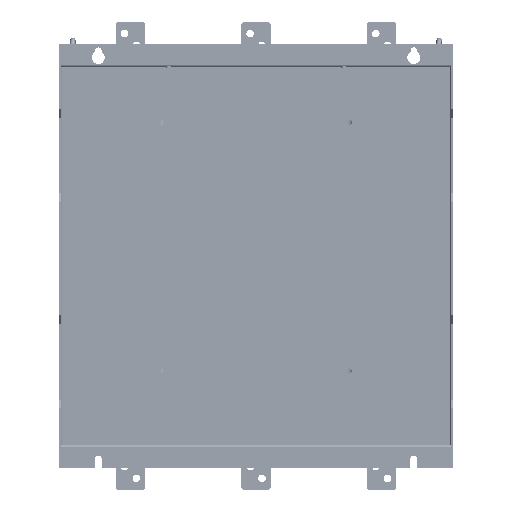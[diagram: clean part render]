
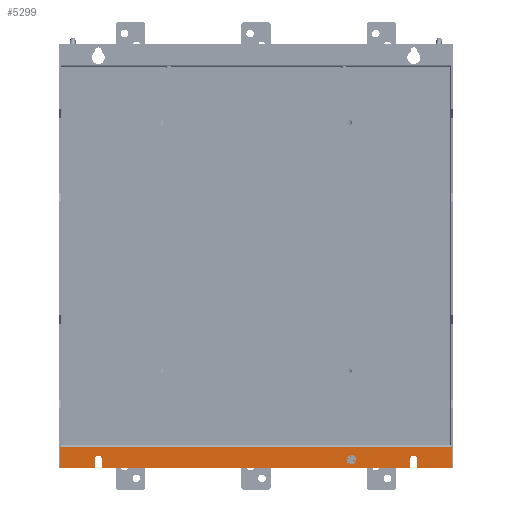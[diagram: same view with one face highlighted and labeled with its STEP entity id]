
A CAD part, front view. The second image highlights one B-rep face of the part: STEP entity #5299.
In plain terms, the highlighted planar face has unit normal (0, -1, 0).
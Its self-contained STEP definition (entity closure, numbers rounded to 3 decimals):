
#1665=DIRECTION('',(-1.,0.,0.));
#1666=VECTOR('',#1665,666.);
#1667=CARTESIAN_POINT('',(333.,-16.,-322.5));
#1668=LINE('',#1667,#1666);
#1739=DIRECTION('',(-1.,0.,0.));
#1740=VECTOR('',#1739,2.);
#1741=CARTESIAN_POINT('',(-333.,-16.,-322.5));
#1742=LINE('',#1741,#1740);
#1753=CARTESIAN_POINT('',(-270.,-16.,-343.));
#1754=DIRECTION('',(0.,-1.,0.));
#1755=DIRECTION('',(1.,0.,0.));
#1756=AXIS2_PLACEMENT_3D('',#1753,#1754,#1755);
#1761=DIRECTION('',(0.,0.,-1.));
#1762=VECTOR('',#1761,15.);
#1763=CARTESIAN_POINT('',(-276.,-16.,-343.));
#1764=LINE('',#1763,#1762);
#1768=DIRECTION('',(-1.,0.,0.));
#1769=VECTOR('',#1768,59.);
#1770=CARTESIAN_POINT('',(-276.,-16.,-358.));
#1771=LINE('',#1770,#1769);
#1775=DIRECTION('',(-1.,0.,0.));
#1776=VECTOR('',#1775,59.);
#1777=CARTESIAN_POINT('',(335.,-16.,-358.));
#1778=LINE('',#1777,#1776);
#1782=CARTESIAN_POINT('',(270.,-16.,-343.));
#1783=DIRECTION('',(0.,-1.,0.));
#1784=DIRECTION('',(1.,0.,0.));
#1785=AXIS2_PLACEMENT_3D('',#1782,#1783,#1784);
#1790=DIRECTION('',(0.,0.,-1.));
#1791=VECTOR('',#1790,15.);
#1792=CARTESIAN_POINT('',(264.,-16.,-343.));
#1793=LINE('',#1792,#1791);
#1797=DIRECTION('',(-1.,0.,0.));
#1798=VECTOR('',#1797,528.);
#1799=CARTESIAN_POINT('',(264.,-16.,-358.));
#1800=LINE('',#1799,#1798);
#1804=CARTESIAN_POINT('',(163.118,-16.,-344.));
#1805=DIRECTION('',(0.,-1.,0.));
#1806=DIRECTION('',(-1.,0.,0.));
#1807=AXIS2_PLACEMENT_3D('',#1804,#1805,#1806);
#1812=CARTESIAN_POINT('',(163.118,-16.,-344.));
#1813=DIRECTION('',(0.,-1.,0.));
#1814=DIRECTION('',(1.,0.,0.));
#1815=AXIS2_PLACEMENT_3D('',#1812,#1813,#1814);
#1945=DIRECTION('',(0.,0.,-1.));
#1946=VECTOR('',#1945,15.);
#1947=CARTESIAN_POINT('',(-264.,-16.,-343.));
#1948=LINE('',#1947,#1946);
#1987=DIRECTION('',(0.,0.,-1.));
#1988=VECTOR('',#1987,15.);
#1989=CARTESIAN_POINT('',(276.,-16.,-343.));
#1990=LINE('',#1989,#1988);
#2001=DIRECTION('',(0.,0.,1.));
#2002=VECTOR('',#2001,35.5);
#2003=CARTESIAN_POINT('',(335.,-16.,-358.));
#2004=LINE('',#2003,#2002);
#2015=DIRECTION('',(-1.,0.,0.));
#2016=VECTOR('',#2015,2.);
#2017=CARTESIAN_POINT('',(335.,-16.,-322.5));
#2018=LINE('',#2017,#2016);
#2029=DIRECTION('',(0.,0.,-1.));
#2030=VECTOR('',#2029,35.5);
#2031=CARTESIAN_POINT('',(-335.,-16.,-322.5));
#2032=LINE('',#2031,#2030);
#3898=CARTESIAN_POINT('',(333.,-16.,-322.5));
#3899=VERTEX_POINT('',#3898);
#3900=CARTESIAN_POINT('',(-333.,-16.,-322.5));
#3901=VERTEX_POINT('',#3900);
#3906=CARTESIAN_POINT('',(-335.,-16.,-322.5));
#3907=VERTEX_POINT('',#3906);
#3910=CARTESIAN_POINT('',(-264.,-16.,-343.));
#3911=CARTESIAN_POINT('',(-276.,-16.,-343.));
#3912=VERTEX_POINT('',#3910);
#3913=VERTEX_POINT('',#3911);
#3914=CARTESIAN_POINT('',(-276.,-16.,-358.));
#3915=VERTEX_POINT('',#3914);
#3916=CARTESIAN_POINT('',(-335.,-16.,-358.));
#3917=VERTEX_POINT('',#3916);
#3918=CARTESIAN_POINT('',(335.,-16.,-322.5));
#3919=VERTEX_POINT('',#3918);
#3920=CARTESIAN_POINT('',(335.,-16.,-358.));
#3921=VERTEX_POINT('',#3920);
#3922=CARTESIAN_POINT('',(276.,-16.,-358.));
#3923=VERTEX_POINT('',#3922);
#3924=CARTESIAN_POINT('',(276.,-16.,-343.));
#3925=VERTEX_POINT('',#3924);
#3926=CARTESIAN_POINT('',(264.,-16.,-343.));
#3927=VERTEX_POINT('',#3926);
#3928=CARTESIAN_POINT('',(264.,-16.,-358.));
#3929=VERTEX_POINT('',#3928);
#3930=CARTESIAN_POINT('',(-264.,-16.,-358.));
#3931=VERTEX_POINT('',#3930);
#3932=CARTESIAN_POINT('',(159.118,-16.,-344.));
#3933=CARTESIAN_POINT('',(167.118,-16.,-344.));
#3934=VERTEX_POINT('',#3932);
#3935=VERTEX_POINT('',#3933);
#5260=CARTESIAN_POINT('',(337.,-16.,-358.));
#5261=DIRECTION('',(0.,1.,0.));
#5262=DIRECTION('',(0.,0.,1.));
#5263=AXIS2_PLACEMENT_3D('',#5260,#5261,#5262);
#5264=PLANE('',#5263);
#5266=ORIENTED_EDGE('',*,*,#5265,.T.);
#5268=ORIENTED_EDGE('',*,*,#5267,.T.);
#5270=ORIENTED_EDGE('',*,*,#5269,.T.);
#5272=ORIENTED_EDGE('',*,*,#5271,.F.);
#5273=ORIENTED_EDGE('',*,*,#5250,.F.);
#5274=ORIENTED_EDGE('',*,*,#5196,.F.);
#5276=ORIENTED_EDGE('',*,*,#5275,.F.);
#5278=ORIENTED_EDGE('',*,*,#5277,.F.);
#5280=ORIENTED_EDGE('',*,*,#5279,.T.);
#5282=ORIENTED_EDGE('',*,*,#5281,.F.);
#5284=ORIENTED_EDGE('',*,*,#5283,.T.);
#5286=ORIENTED_EDGE('',*,*,#5285,.T.);
#5288=ORIENTED_EDGE('',*,*,#5287,.T.);
#5290=ORIENTED_EDGE('',*,*,#5289,.F.);
#5291=EDGE_LOOP('',(#5266,#5268,#5270,#5272,#5273,#5274,#5276,#5278,#5280,#5282,
#5284,#5286,#5288,#5290));
#5292=FACE_OUTER_BOUND('',#5291,.F.);
#5294=ORIENTED_EDGE('',*,*,#5293,.T.);
#5296=ORIENTED_EDGE('',*,*,#5295,.T.);
#5297=EDGE_LOOP('',(#5294,#5296));
#5298=FACE_BOUND('',#5297,.F.);
#5299=ADVANCED_FACE('',(#5292,#5298),#5264,.F.);
#1757=CIRCLE('',#1756,6.);
#1786=CIRCLE('',#1785,6.);
#1808=CIRCLE('',#1807,4.);
#1816=CIRCLE('',#1815,4.);
#5196=EDGE_CURVE('',#3899,#3901,#1668,.T.);
#5250=EDGE_CURVE('',#3901,#3907,#1742,.T.);
#5265=EDGE_CURVE('',#3912,#3913,#1757,.T.);
#5267=EDGE_CURVE('',#3913,#3915,#1764,.T.);
#5269=EDGE_CURVE('',#3915,#3917,#1771,.T.);
#5271=EDGE_CURVE('',#3907,#3917,#2032,.T.);
#5275=EDGE_CURVE('',#3919,#3899,#2018,.T.);
#5277=EDGE_CURVE('',#3921,#3919,#2004,.T.);
#5279=EDGE_CURVE('',#3921,#3923,#1778,.T.);
#5281=EDGE_CURVE('',#3925,#3923,#1990,.T.);
#5283=EDGE_CURVE('',#3925,#3927,#1786,.T.);
#5285=EDGE_CURVE('',#3927,#3929,#1793,.T.);
#5287=EDGE_CURVE('',#3929,#3931,#1800,.T.);
#5289=EDGE_CURVE('',#3912,#3931,#1948,.T.);
#5293=EDGE_CURVE('',#3934,#3935,#1808,.T.);
#5295=EDGE_CURVE('',#3935,#3934,#1816,.T.);
